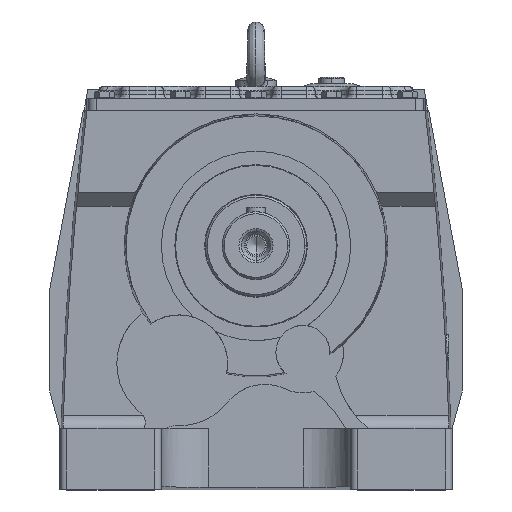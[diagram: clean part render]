
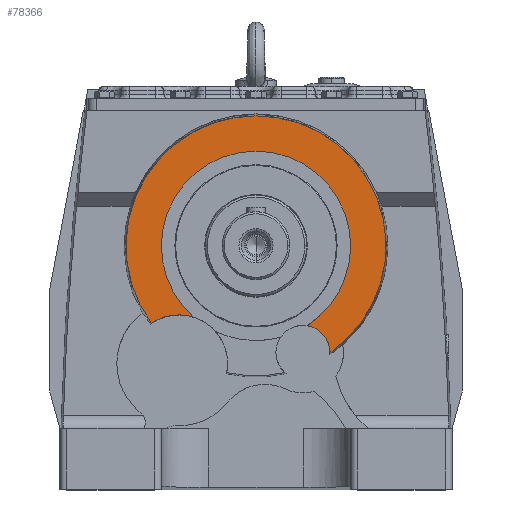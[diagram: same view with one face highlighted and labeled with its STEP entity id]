
A CAD part, top view. The second image highlights one B-rep face of the part: STEP entity #78366.
In plain terms, the highlighted planar face has unit normal (0, 0, 1).
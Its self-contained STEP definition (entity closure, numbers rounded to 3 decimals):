
#23634 = EDGE_LOOP ( 'NONE', ( #57008, #56910, #56916, #56880, #56912, #56962, #57026, #56902 ) ) ;
#30059 = EDGE_CURVE ( 'NONE', #87485, #87726, #99087, .T. ) ;
#30133 = EDGE_CURVE ( 'NONE', #87619, #87666, #99097, .T. ) ;
#30154 = EDGE_CURVE ( 'NONE', #87706, #87633, #99151, .T. ) ;
#30339 = EDGE_CURVE ( 'NONE', #87724, #87619, #99188, .T. ) ;
#30437 = EDGE_CURVE ( 'NONE', #87575, #87706, #99237, .T. ) ;
#56880 = ORIENTED_EDGE ( 'NONE', *, *, #30133, .T. ) ;
#56902 = ORIENTED_EDGE ( 'NONE', *, *, #63070, .F. ) ;
#56910 = ORIENTED_EDGE ( 'NONE', *, *, #63093, .T. ) ;
#56912 = ORIENTED_EDGE ( 'NONE', *, *, #63101, .T. ) ;
#56916 = ORIENTED_EDGE ( 'NONE', *, *, #30339, .T. ) ;
#56962 = ORIENTED_EDGE ( 'NONE', *, *, #30437, .T. ) ;
#57008 = ORIENTED_EDGE ( 'NONE', *, *, #30059, .F. ) ;
#57026 = ORIENTED_EDGE ( 'NONE', *, *, #30154, .T. ) ;
#63070 = EDGE_CURVE ( 'NONE', #87726, #87633, #196214, .T. ) ;
#63093 = EDGE_CURVE ( 'NONE', #87485, #87724, #196514, .T. ) ;
#63101 = EDGE_CURVE ( 'NONE', #87666, #87575, #196439, .T. ) ;
#78366 = ADVANCED_FACE ( 'NONE', ( #149181 ), #145209, .T. ) ;
#87485 = VERTEX_POINT ( 'NONE', #120188 ) ;
#87575 = VERTEX_POINT ( 'NONE', #120464 ) ;
#87619 = VERTEX_POINT ( 'NONE', #120425 ) ;
#87633 = VERTEX_POINT ( 'NONE', #120442 ) ;
#87666 = VERTEX_POINT ( 'NONE', #130289 ) ;
#87706 = VERTEX_POINT ( 'NONE', #130268 ) ;
#87724 = VERTEX_POINT ( 'NONE', #130306 ) ;
#87726 = VERTEX_POINT ( 'NONE', #130246 ) ;
#91463 = AXIS2_PLACEMENT_3D ( 'NONE', #105606, #105658, #105652 ) ;
#91486 = AXIS2_PLACEMENT_3D ( 'NONE', #111432, #111456, #111350 ) ;
#91542 = AXIS2_PLACEMENT_3D ( 'NONE', #105092, #105125, #105064 ) ;
#91684 = AXIS2_PLACEMENT_3D ( 'NONE', #105471, #105477, #105457 ) ;
#91888 = AXIS2_PLACEMENT_3D ( 'NONE', #112218, #112182, #112176 ) ;
#99087 = CIRCLE ( 'NONE', #91542, 96.138 ) ;
#99097 = CIRCLE ( 'NONE', #91684, 70. ) ;
#99151 = CIRCLE ( 'NONE', #91463, 20. ) ;
#99188 = CIRCLE ( 'NONE', #91486, 70. ) ;
#99237 = CIRCLE ( 'NONE', #91888, 20. ) ;
#105064 = DIRECTION ( 'NONE',  ( 0., 1., 0. ) ) ;
#105092 = CARTESIAN_POINT ( 'NONE',  ( 0., 0., 153. ) ) ;
#105125 = DIRECTION ( 'NONE',  ( 0., 0., -1. ) ) ;
#105457 = DIRECTION ( 'NONE',  ( -1., 0., 0. ) ) ;
#105471 = CARTESIAN_POINT ( 'NONE',  ( 0., 0., 153. ) ) ;
#105477 = DIRECTION ( 'NONE',  ( 0., 0., -1. ) ) ;
#105606 = CARTESIAN_POINT ( 'NONE',  ( 34.675, -78.719, 153. ) ) ;
#105652 = DIRECTION ( 'NONE',  ( -1., 0., 0. ) ) ;
#105658 = DIRECTION ( 'NONE',  ( 0., 0., -1. ) ) ;
#105924 = AXIS2_PLACEMENT_3D ( 'NONE', #145240, #145234, #145182 ) ;
#111350 = DIRECTION ( 'NONE',  ( -1., 0., 0. ) ) ;
#111432 = CARTESIAN_POINT ( 'NONE',  ( 0., 0., 153. ) ) ;
#111456 = DIRECTION ( 'NONE',  ( 0., 0., -1. ) ) ;
#112176 = DIRECTION ( 'NONE',  ( -1., 0., 0. ) ) ;
#112182 = DIRECTION ( 'NONE',  ( 0., 0., -1. ) ) ;
#112218 = CARTESIAN_POINT ( 'NONE',  ( 34.675, -78.719, 153. ) ) ;
#120188 = CARTESIAN_POINT ( 'NONE',  ( -77.219, -57.269, 153. ) ) ;
#120425 = CARTESIAN_POINT ( 'NONE',  ( -70., 0., 153. ) ) ;
#120442 = CARTESIAN_POINT ( 'NONE',  ( 54.671, -79.08, 153. ) ) ;
#120464 = CARTESIAN_POINT ( 'NONE',  ( 37.74, -58.955, 153. ) ) ;
#126335 = AXIS2_PLACEMENT_3D ( 'NONE', #195066, #195018, #195058 ) ;
#126404 = AXIS2_PLACEMENT_3D ( 'NONE', #194985, #194966, #194997 ) ;
#126467 = AXIS2_PLACEMENT_3D ( 'NONE', #194845, #194881, #194883 ) ;
#130246 = CARTESIAN_POINT ( 'NONE',  ( 0., 96.138, 153. ) ) ;
#130268 = CARTESIAN_POINT ( 'NONE',  ( 54.675, -78.719, 153. ) ) ;
#130289 = CARTESIAN_POINT ( 'NONE',  ( 70., 0., 153. ) ) ;
#130306 = CARTESIAN_POINT ( 'NONE',  ( -46.066, -52.706, 153. ) ) ;
#145182 = DIRECTION ( 'NONE',  ( 1., 0., 0. ) ) ;
#145209 = PLANE ( 'NONE',  #105924 ) ;
#145234 = DIRECTION ( 'NONE',  ( 0., 0., 1. ) ) ;
#145240 = CARTESIAN_POINT ( 'NONE',  ( 0., 0., 153. ) ) ;
#149181 = FACE_OUTER_BOUND ( 'NONE', #23634, .T. ) ;
#194845 = CARTESIAN_POINT ( 'NONE',  ( 0., 0., 153. ) ) ;
#194881 = DIRECTION ( 'NONE',  ( 0., 0., -1. ) ) ;
#194883 = DIRECTION ( 'NONE',  ( 0., 1., 0. ) ) ;
#194966 = DIRECTION ( 'NONE',  ( 0., 0., -1. ) ) ;
#194985 = CARTESIAN_POINT ( 'NONE',  ( -56.95, -87.021, 153. ) ) ;
#194997 = DIRECTION ( 'NONE',  ( -1., 0., 0. ) ) ;
#195018 = DIRECTION ( 'NONE',  ( 0., 0., -1. ) ) ;
#195058 = DIRECTION ( 'NONE',  ( -1., 0., 0. ) ) ;
#195066 = CARTESIAN_POINT ( 'NONE',  ( 0., 0., 153. ) ) ;
#196214 = CIRCLE ( 'NONE', #126467, 96.138 ) ;
#196439 = CIRCLE ( 'NONE', #126335, 70. ) ;
#196514 = CIRCLE ( 'NONE', #126404, 36. ) ;
